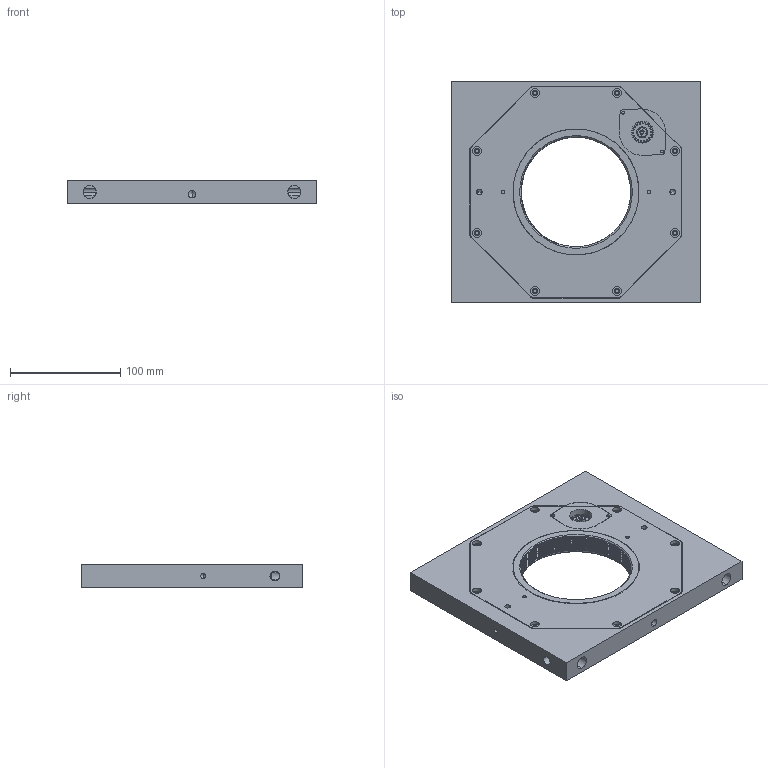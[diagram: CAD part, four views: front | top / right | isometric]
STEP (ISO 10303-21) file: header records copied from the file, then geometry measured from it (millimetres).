
FILE_DESCRIPTION (( 'STEP AP214' ), '1' );
FILE_NAME ('Rot-Gehäuse.STEP', '2013-02-06T06:12:29', ( 'digger' ), ( '' ), 'SwSTEP 2.0', 'SolidWorks 2012', '' );
FILE_SCHEMA (( 'AUTOMOTIVE_DESIGN' ));
Length unit declared in the file: millimetre
Products named in the file (7): Vierkant; Zahnrad_m1_z18; Zahnkranz; Rotgeh_Deckel; Zahnradkörper; Rotgeh; Rot-Gehäuse
Assembly tree (6 placements, depth 2):
  Rot-Gehäuse
    Rotgeh
    Zahnradkörper
    Rotgeh_Deckel
    Zahnkranz
    Zahnrad_m1_z18
    Vierkant
Bounding box: 225 x 200 x 20 mm (x, y, z)
Volume: 658624.6 mm3; surface area: 202183.8 mm2
Topology: 6 solids, 6 shells, 1940 faces, 5632 edges, 3722 vertices
Faces by surface type: cylinder 1250, bspline 488, plane 139, cone 63
Entity records: 74117 total; most frequent: CARTESIAN_POINT 23439, ORIENTED_EDGE 11220, DIRECTION 9968, EDGE_CURVE 5610, AXIS2_PLACEMENT_3D 3952, VERTEX_POINT 3722, CIRCLE 2491, EDGE_LOOP 2078
